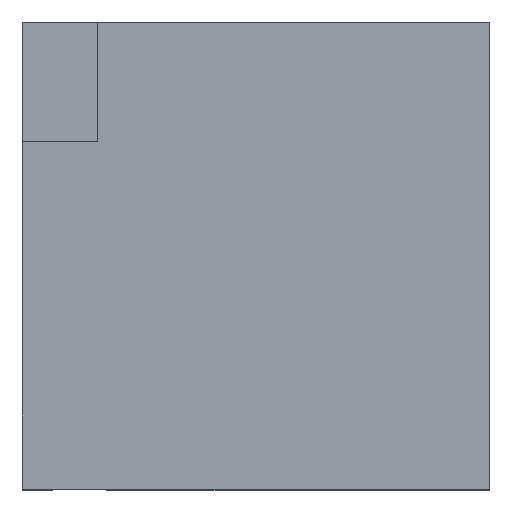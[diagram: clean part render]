
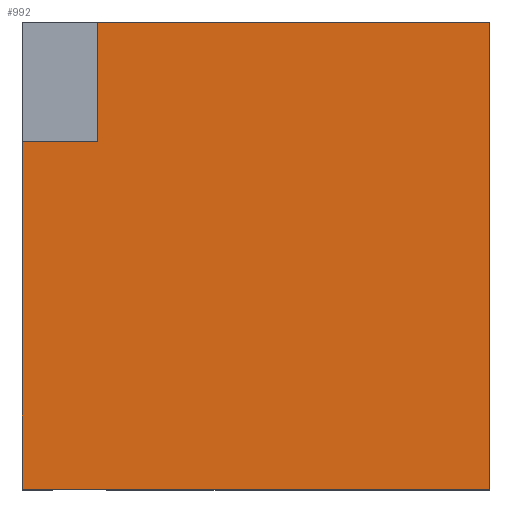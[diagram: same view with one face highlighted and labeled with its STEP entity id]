
A CAD part, top view. The second image highlights one B-rep face of the part: STEP entity #992.
In plain terms, the highlighted planar face has unit normal (0, 0, 1).
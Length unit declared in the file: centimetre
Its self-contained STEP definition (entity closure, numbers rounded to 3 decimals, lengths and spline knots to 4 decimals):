
#14 = CARTESIAN_POINT ( 'NONE',  ( 1000., 0., 1000. ) ) ;
#19 = DIRECTION ( 'NONE',  ( 1., 0., 0. ) ) ;
#29 = VECTOR ( 'NONE', #1094, 100. ) ;
#34 = VERTEX_POINT ( 'NONE', #14 ) ;
#63 = CARTESIAN_POINT ( 'NONE',  ( 0., 0., 1000. ) ) ;
#68 = VECTOR ( 'NONE', #481, 100. ) ;
#69 = CARTESIAN_POINT ( 'NONE',  ( 0., 0., 1000. ) ) ;
#95 = EDGE_CURVE ( 'NONE', #561, #869, #148, .T. ) ;
#148 = LINE ( 'NONE', #385, #185 ) ;
#185 = VECTOR ( 'NONE', #664, 100. ) ;
#199 = CARTESIAN_POINT ( 'NONE',  ( 160.5894, 744.6015, 1000. ) ) ;
#207 = LINE ( 'NONE', #797, #597 ) ;
#232 = ORIENTED_EDGE ( 'NONE', *, *, #1120, .T. ) ;
#292 = AXIS2_PLACEMENT_3D ( 'NONE', #807, #544, #19 ) ;
#310 = LINE ( 'NONE', #1087, #68 ) ;
#325 = EDGE_LOOP ( 'NONE', ( #593, #350, #596, #961, #232, #518 ) ) ;
#330 = VERTEX_POINT ( 'NONE', #512 ) ;
#335 = DIRECTION ( 'NONE',  ( 1., 0., 0. ) ) ;
#350 = ORIENTED_EDGE ( 'NONE', *, *, #1128, .F. ) ;
#352 = EDGE_CURVE ( 'NONE', #869, #34, #774, .T. ) ;
#357 = FACE_OUTER_BOUND ( 'NONE', #325, .T. ) ;
#374 = CARTESIAN_POINT ( 'NONE',  ( 0., 744.6015, 1000. ) ) ;
#385 = CARTESIAN_POINT ( 'NONE',  ( 0., 1000., 1000. ) ) ;
#448 = PLANE ( 'NONE',  #292 ) ;
#455 = EDGE_CURVE ( 'NONE', #1100, #607, #717, .T. ) ;
#481 = DIRECTION ( 'NONE',  ( 1., 0., 0. ) ) ;
#483 = VECTOR ( 'NONE', #535, 100. ) ;
#512 = CARTESIAN_POINT ( 'NONE',  ( 1000., 1000., 1000. ) ) ;
#518 = ORIENTED_EDGE ( 'NONE', *, *, #999, .T. ) ;
#535 = DIRECTION ( 'NONE',  ( 0., 1., 0. ) ) ;
#544 = DIRECTION ( 'NONE',  ( 0., 0., 1. ) ) ;
#561 = VERTEX_POINT ( 'NONE', #374 ) ;
#593 = ORIENTED_EDGE ( 'NONE', *, *, #455, .F. ) ;
#596 = ORIENTED_EDGE ( 'NONE', *, *, #95, .T. ) ;
#597 = VECTOR ( 'NONE', #812, 100. ) ;
#607 = VERTEX_POINT ( 'NONE', #1074 ) ;
#655 = CARTESIAN_POINT ( 'NONE',  ( 1000., 1000., 1000. ) ) ;
#664 = DIRECTION ( 'NONE',  ( 0., -1., 0. ) ) ;
#717 = LINE ( 'NONE', #199, #483 ) ;
#774 = LINE ( 'NONE', #69, #926 ) ;
#797 = CARTESIAN_POINT ( 'NONE',  ( 0., 1000., 1000. ) ) ;
#807 = CARTESIAN_POINT ( 'NONE',  ( 0., 0., 1000. ) ) ;
#812 = DIRECTION ( 'NONE',  ( -1., 0., 0. ) ) ;
#832 = CARTESIAN_POINT ( 'NONE',  ( 160.5894, 744.6015, 1000. ) ) ;
#869 = VERTEX_POINT ( 'NONE', #63 ) ;
#926 = VECTOR ( 'NONE', #335, 100. ) ;
#961 = ORIENTED_EDGE ( 'NONE', *, *, #352, .T. ) ;
#992 = ADVANCED_FACE ( 'NONE', ( #357 ), #448, .T. ) ;
#999 = EDGE_CURVE ( 'NONE', #330, #607, #207, .T. ) ;
#1025 = LINE ( 'NONE', #655, #29 ) ;
#1074 = CARTESIAN_POINT ( 'NONE',  ( 160.5894, 1000., 1000. ) ) ;
#1087 = CARTESIAN_POINT ( 'NONE',  ( 0., 744.6015, 1000. ) ) ;
#1094 = DIRECTION ( 'NONE',  ( 0., 1., 0. ) ) ;
#1100 = VERTEX_POINT ( 'NONE', #832 ) ;
#1120 = EDGE_CURVE ( 'NONE', #34, #330, #1025, .T. ) ;
#1128 = EDGE_CURVE ( 'NONE', #561, #1100, #310, .T. ) ;
